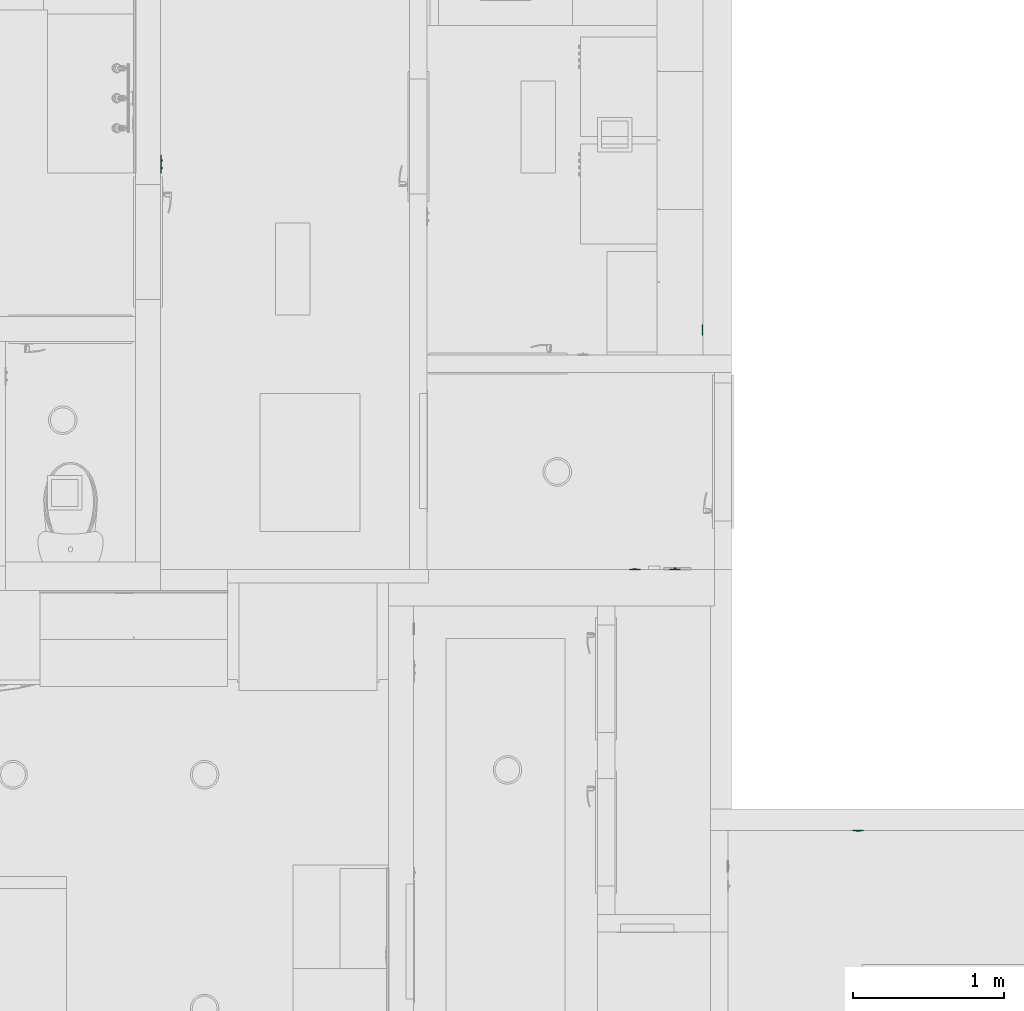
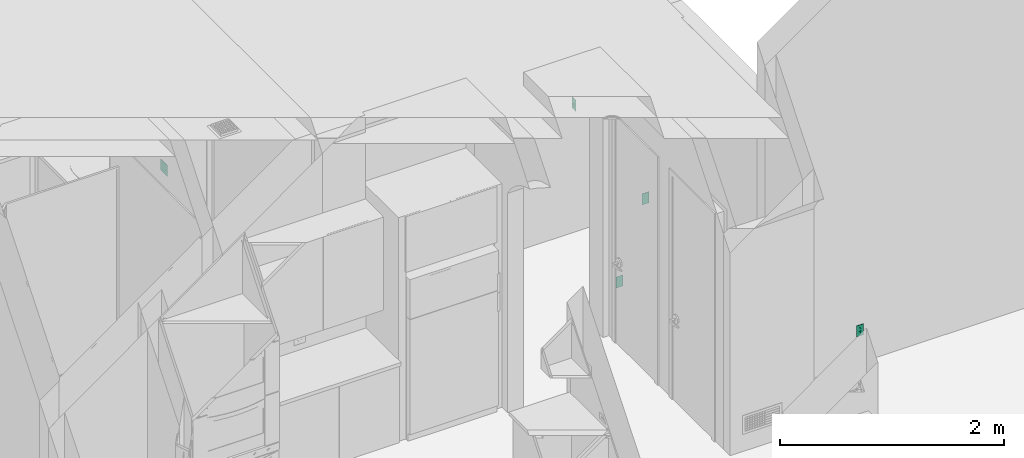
# One storey, part 30 of 103: 5 flow controllers.
"""IFC2X3 building model written with IfcOpenShell, lengths in inches."""

from ifc_helpers import new_model, entity, si_unit, converted_unit, derived_unit, money_unit, direction, frame, origin_with_axes, place, context, subcontext, project, spatial, faceted_brep, source, transform, mapped, type_object, element, save


model = new_model("IFC2X3")

# Units and contexts
model_context = context("Model", 3, precision=0.00039370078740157, world=origin_with_axes(), true_north=direction((0.0, 1.0)))
plan_context = context("Plan", 3, precision=0.00039370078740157, world=origin_with_axes(), true_north=direction((0.0, 1.0)))
body_context = subcontext(model_context, "Body", "Model", "MODEL_VIEW")
ifc_project = project(units=[converted_unit("LENGTHUNIT", "INCH", entity("IfcPositiveLengthMeasure", 0.0254), si_unit("LENGTHUNIT", "METRE"), dimensions=[1, 0, 0, 0, 0, 0, 0]), converted_unit("AREAUNIT", "SQUARE_FOOT", entity("IfcPositiveLengthMeasure", 0.09290304), si_unit("AREAUNIT", "SQUARE_METRE"), dimensions=[2, 0, 0, 0, 0, 0, 0]), si_unit("PLANEANGLEUNIT", "RADIAN"), si_unit("SOLIDANGLEUNIT", "STERADIAN"), money_unit("USD"), converted_unit("TIMEUNIT", "Year", entity("IfcTimeMeasure", 31557600.0), si_unit("TIMEUNIT", "SECOND"), dimensions=[0, 0, 1, 0, 0, 0, 0]), si_unit("MASSUNIT", "GRAM", prefix="KILO"), si_unit("THERMODYNAMICTEMPERATUREUNIT", "DEGREE_CELSIUS"), si_unit("LUMINOUSINTENSITYUNIT", "LUMEN"), si_unit("ENERGYUNIT", "JOULE", prefix="MEGA"), derived_unit("SPECIFICHEATCAPACITYUNIT", [(si_unit("ENERGYUNIT", "JOULE"), 1), (si_unit("MASSUNIT", "GRAM", prefix="KILO"), -1), (si_unit("THERMODYNAMICTEMPERATUREUNIT", "KELVIN"), -1)])], contexts=[model_context, plan_context])

# Site, building, storey
site_placement = place(None, origin_with_axes())
site = spatial("IfcSite", under=ifc_project, at=site_placement, Name="Site", CompositionType="ELEMENT")
building_placement = place(site_placement, origin_with_axes())
building = spatial("IfcBuilding", under=site, at=building_placement, Name="Building", CompositionType="ELEMENT")
storey_placement = place(building_placement, frame((0.0, 0.0, 127.9999999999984), z_axis=(0.0, 0.0, 1.0), x_axis=(1.0, 0.0, 0.0)))
storey = spatial("IfcBuildingStorey", under=building, at=storey_placement, Name="Second Floor", CompositionType="ELEMENT", Elevation=128.0)

# Flow controllers
switching_device_type_1 = type_object("IfcSwitchingDeviceType", Name="Outlet 1 US", PredefinedType="NOTDEFINED")
shared_shape_1 = source(origin_with_axes(), body_context, "Body", "Brep", [
    faceted_brep([(0.39370078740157, -0.03444881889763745, -1.18110236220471), (0.5436477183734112, -0.03444881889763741, -0.7086614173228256), (0.5436477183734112, -0.2165354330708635, -0.7086614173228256), (0.39370078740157, -0.2165354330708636, -1.18110236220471), (-0.3937007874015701, -0.03444881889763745, -1.181102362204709), (-0.543647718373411, -0.03444881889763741, -0.7086614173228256), (-0.39370078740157, -0.03444881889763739, -0.2362204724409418), (0.3937007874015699, -0.03444881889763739, -0.2362204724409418), (-0.196850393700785, -0.03444881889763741, -0.7086614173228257), (-0.196850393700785, -0.0344488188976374, -0.4724409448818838), (-0.275590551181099, -0.0344488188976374, -0.4724409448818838), (-0.275590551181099, -0.03444881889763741, -0.7086614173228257), (0.196850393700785, -0.03444881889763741, -0.7086614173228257), (0.275590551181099, -0.03444881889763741, -0.7086614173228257), (0.275590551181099, -0.0344488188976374, -0.4724409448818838), (0.196850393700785, -0.0344488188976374, -0.4724409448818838), (-0.078740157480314, -0.03444881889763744, -1.102362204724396), (0.078740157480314, -0.03444881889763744, -1.102362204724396), (0.078740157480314, -0.03444881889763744, -1.023622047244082), (0.06819097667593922, -0.03444881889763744, -0.9842519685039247), (0.03937007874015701, -0.03444881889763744, -0.9554310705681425), (0.0, -0.03444881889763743, -0.9448818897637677), (-0.03937007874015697, -0.03444881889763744, -0.9554310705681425), (-0.06819097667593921, -0.03444881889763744, -0.9842519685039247), (-0.078740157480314, -0.03444881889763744, -1.023622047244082), (0.3937007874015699, -0.2165354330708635, -0.2362204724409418), (-0.39370078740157, -0.2165354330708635, -0.2362204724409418), (-0.543647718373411, -0.2165354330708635, -0.7086614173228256), (-0.3937007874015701, -0.2165354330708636, -1.181102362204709), (-0.196850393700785, -0.2165354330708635, -0.7086614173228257), (-0.275590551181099, -0.2165354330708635, -0.7086614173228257), (-0.275590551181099, -0.2165354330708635, -0.4724409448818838), (-0.196850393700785, -0.2165354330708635, -0.4724409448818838), (0.196850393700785, -0.2165354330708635, -0.7086614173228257), (0.196850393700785, -0.2165354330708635, -0.4724409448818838), (0.275590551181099, -0.2165354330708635, -0.4724409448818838), (0.275590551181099, -0.2165354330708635, -0.7086614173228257), (-0.078740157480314, -0.2165354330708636, -1.102362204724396), (-0.078740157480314, -0.2165354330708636, -1.023622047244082), (-0.06819097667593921, -0.2165354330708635, -0.9842519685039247), (-0.03937007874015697, -0.2165354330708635, -0.9554310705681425), (0.0, -0.2165354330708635, -0.9448818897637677), (0.03937007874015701, -0.2165354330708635, -0.9554310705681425), (0.06819097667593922, -0.2165354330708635, -0.9842519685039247), (0.078740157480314, -0.2165354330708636, -1.023622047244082), (0.078740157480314, -0.2165354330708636, -1.102362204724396)], [[[0, 1, 2, 3]], [[0, 4, 5, 6, 7, 1], [8, 9, 10, 11], [12, 13, 14, 15], [16, 17, 18, 19, 20, 21, 22, 23, 24]], [[1, 7, 25, 2]], [[3, 2, 25, 26, 27, 28], [29, 30, 31, 32], [33, 34, 35, 36], [37, 38, 39, 40, 41, 42, 43, 44, 45]], [[4, 0, 3, 28]], [[5, 4, 28, 27]], [[6, 5, 27, 26]], [[7, 6, 26, 25]], [[9, 8, 29, 32]], [[10, 9, 32, 31]], [[11, 10, 31, 30]], [[8, 11, 30, 29]], [[13, 12, 33, 36]], [[14, 13, 36, 35]], [[15, 14, 35, 34]], [[12, 15, 34, 33]], [[17, 16, 37, 45]], [[18, 17, 45, 44]], [[19, 18, 44, 43]], [[20, 19, 43, 42]], [[21, 20, 42, 41]], [[22, 21, 41, 40]], [[23, 22, 40, 39]], [[24, 23, 39, 38]], [[16, 24, 38, 37]]]),
    faceted_brep([(0.39370078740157, -0.03444881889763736, 0.2362204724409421), (0.5436477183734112, -0.03444881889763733, 0.7086614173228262), (0.5436477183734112, -0.2165354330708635, 0.7086614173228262), (0.39370078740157, -0.2165354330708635, 0.2362204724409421), (-0.3937007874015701, -0.03444881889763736, 0.2362204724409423), (-0.543647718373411, -0.03444881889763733, 0.7086614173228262), (-0.39370078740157, -0.0344488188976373, 1.18110236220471), (0.3937007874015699, -0.0344488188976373, 1.18110236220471), (-0.196850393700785, -0.03444881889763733, 0.7086614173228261), (-0.196850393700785, -0.03444881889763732, 0.944881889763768), (-0.275590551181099, -0.03444881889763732, 0.944881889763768), (-0.275590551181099, -0.03444881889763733, 0.7086614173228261), (0.196850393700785, -0.03444881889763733, 0.7086614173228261), (0.275590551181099, -0.03444881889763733, 0.7086614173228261), (0.275590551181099, -0.03444881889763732, 0.944881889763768), (0.196850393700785, -0.03444881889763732, 0.944881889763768), (-0.078740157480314, -0.03444881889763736, 0.3149606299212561), (0.078740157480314, -0.03444881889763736, 0.3149606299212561), (0.078740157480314, -0.03444881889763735, 0.3937007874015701), (0.06819097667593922, -0.03444881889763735, 0.4330708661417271), (0.03937007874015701, -0.03444881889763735, 0.4618917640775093), (0.0, -0.03444881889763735, 0.472440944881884), (-0.03937007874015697, -0.03444881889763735, 0.4618917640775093), (-0.06819097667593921, -0.03444881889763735, 0.4330708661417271), (-0.078740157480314, -0.03444881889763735, 0.3937007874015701), (0.3937007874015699, -0.2165354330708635, 1.18110236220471), (-0.39370078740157, -0.2165354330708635, 1.18110236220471), (-0.543647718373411, -0.2165354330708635, 0.7086614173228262), (-0.3937007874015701, -0.2165354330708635, 0.2362204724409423), (-0.196850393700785, -0.2165354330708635, 0.7086614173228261), (-0.275590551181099, -0.2165354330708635, 0.7086614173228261), (-0.275590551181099, -0.2165354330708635, 0.944881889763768), (-0.196850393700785, -0.2165354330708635, 0.944881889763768), (0.196850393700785, -0.2165354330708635, 0.7086614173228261), (0.196850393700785, -0.2165354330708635, 0.944881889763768), (0.275590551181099, -0.2165354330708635, 0.944881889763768), (0.275590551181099, -0.2165354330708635, 0.7086614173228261), (-0.078740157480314, -0.2165354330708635, 0.3149606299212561), (-0.078740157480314, -0.2165354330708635, 0.3937007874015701), (-0.06819097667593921, -0.2165354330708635, 0.4330708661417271), (-0.03937007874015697, -0.2165354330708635, 0.4618917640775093), (0.0, -0.2165354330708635, 0.472440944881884), (0.03937007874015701, -0.2165354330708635, 0.4618917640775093), (0.06819097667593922, -0.2165354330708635, 0.4330708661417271), (0.078740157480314, -0.2165354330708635, 0.3937007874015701), (0.078740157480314, -0.2165354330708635, 0.3149606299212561)], [[[0, 1, 2, 3]], [[0, 4, 5, 6, 7, 1], [8, 9, 10, 11], [12, 13, 14, 15], [16, 17, 18, 19, 20, 21, 22, 23, 24]], [[1, 7, 25, 2]], [[3, 2, 25, 26, 27, 28], [29, 30, 31, 32], [33, 34, 35, 36], [37, 38, 39, 40, 41, 42, 43, 44, 45]], [[4, 0, 3, 28]], [[5, 4, 28, 27]], [[6, 5, 27, 26]], [[7, 6, 26, 25]], [[9, 8, 29, 32]], [[10, 9, 32, 31]], [[11, 10, 31, 30]], [[8, 11, 30, 29]], [[13, 12, 33, 36]], [[14, 13, 36, 35]], [[15, 14, 35, 34]], [[12, 15, 34, 33]], [[17, 16, 37, 45]], [[18, 17, 45, 44]], [[19, 18, 44, 43]], [[20, 19, 43, 42]], [[21, 20, 42, 41]], [[22, 21, 41, 40]], [[23, 22, 40, 39]], [[24, 23, 39, 38]], [[16, 24, 38, 37]]]),
    faceted_brep([(-1.343503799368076, -0.1377952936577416, -2.327755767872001), (1.343503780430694, -0.1377952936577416, -2.327755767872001), (1.343503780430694, -0.1377952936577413, 2.327755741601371), (-1.343503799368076, -0.1377952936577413, 2.327755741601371), (0.39370078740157, -0.1377952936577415, -1.18110236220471), (-0.3937007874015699, -0.1377952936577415, -1.181102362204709), (-0.5436477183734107, -0.1377952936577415, -0.7086614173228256), (-0.39370078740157, -0.1377952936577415, -0.2362204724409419), (0.3937007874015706, -0.1377952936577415, -0.2362204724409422), (0.5436477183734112, -0.1377952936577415, -0.7086614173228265), (-0.39370078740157, -0.1377952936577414, 1.18110236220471), (0.3937007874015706, -0.1377952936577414, 1.18110236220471), (0.5436477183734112, -0.1377952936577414, 0.7086614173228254), (0.39370078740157, -0.1377952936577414, 0.236220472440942), (-0.3937007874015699, -0.1377952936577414, 0.2362204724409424), (-0.5436477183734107, -0.1377952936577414, 0.7086614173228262), (-1.352419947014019, -0.1366214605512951, -2.336671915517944), (1.352419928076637, -0.1366214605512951, -2.336671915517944), (1.352419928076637, -0.1366214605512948, 2.336671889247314), (-1.352419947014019, -0.1366214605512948, 2.336671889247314), (0.39370078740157, -0.03444881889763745, -1.18110236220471), (-0.3937007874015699, -0.03444881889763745, -1.181102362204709), (-0.5436477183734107, -0.03444881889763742, -0.7086614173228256), (-0.39370078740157, -0.03444881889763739, -0.2362204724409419), (0.3937007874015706, -0.03444881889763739, -0.2362204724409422), (0.5436477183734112, -0.03444881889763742, -0.7086614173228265), (-0.39370078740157, -0.0344488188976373, 1.18110236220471), (0.3937007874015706, -0.0344488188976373, 1.18110236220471), (0.5436477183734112, -0.03444881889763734, 0.7086614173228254), (0.39370078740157, -0.03444881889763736, 0.236220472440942), (-0.3937007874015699, -0.03444881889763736, 0.2362204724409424), (-0.5436477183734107, -0.03444881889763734, 0.7086614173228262), (-1.36786294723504, -0.1277054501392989, -2.352114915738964), (1.367862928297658, -0.1277054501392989, -2.352114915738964), (1.367862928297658, -0.1277054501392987, 2.352114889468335), (-1.36786294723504, -0.1277054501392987, 2.352114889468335), (-1.376778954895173, -0.1122624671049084, -2.361030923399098), (1.376778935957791, -0.1122624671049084, -2.361030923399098), (1.376778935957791, -0.1122624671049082, 2.361030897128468), (-1.376778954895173, -0.1122624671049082, 2.361030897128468), (-1.377952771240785, -0.1033464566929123, -2.362204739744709), (1.377952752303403, -0.1033464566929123, -2.362204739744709), (1.377952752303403, -0.103346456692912, 2.36220471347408), (-1.377952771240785, -0.103346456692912, 2.36220471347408), (-1.377952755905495, 0.0, -2.36220472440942), (1.377952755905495, 0.0, -2.36220472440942), (1.377952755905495, 0.0, 2.36220472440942), (-1.377952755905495, 0.0, 2.36220472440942)], [[[0, 1, 2, 3], [4, 5, 6, 7, 8, 9], [10, 11, 12, 13, 14, 15]], [[1, 0, 16, 17]], [[2, 1, 17, 18]], [[3, 2, 18, 19]], [[0, 3, 19, 16]], [[4, 20, 21, 5]], [[5, 21, 22, 6]], [[6, 22, 23, 7]], [[7, 23, 24, 8]], [[8, 24, 25, 9]], [[9, 25, 20, 4]], [[11, 10, 26, 27]], [[12, 11, 27, 28]], [[13, 12, 28, 29]], [[14, 13, 29, 30]], [[15, 14, 30, 31]], [[10, 15, 31, 26]], [[17, 16, 32, 33]], [[18, 17, 33, 34]], [[19, 18, 34, 35]], [[16, 19, 35, 32]], [[22, 21, 20, 25, 24, 23]], [[28, 27, 26, 31, 30, 29]], [[33, 32, 36, 37]], [[34, 33, 37, 38]], [[35, 34, 38, 39]], [[32, 35, 39, 36]], [[37, 36, 40, 41]], [[38, 37, 41, 42]], [[39, 38, 42, 43]], [[36, 39, 43, 40]], [[41, 40, 44, 45]], [[42, 41, 45, 46]], [[43, 42, 46, 47]], [[40, 43, 47, 44]], [[46, 45, 44, 47]]]),
])
for number, where, z_axis, x_axis, name in (
    (1, (236.9999999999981, 463.5312499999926, 45.99999999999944), (0.0, 0.0, 1.0), (0.0, -1.0, 0.0), "FU - 029"),
    (2, (277.4999999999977, 332.9999999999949, 13.99803149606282), (0.0, 0.0, 1.0), (1.0, 0.0, 0.0), "FU - 029"),
    (3, (219.2499999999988, 401.0009092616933, 13.99999999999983), (0.0, 0.0, 1.0), (-1.0, 0.0, 0.0), "FU - 029"),
):
    element("IfcFlowController", number, at=place(storey_placement, frame(where, z_axis=z_axis, x_axis=x_axis)), inside=storey, type_object=switching_device_type_1, Name=name, context=body_context, shape_type="MappedRepresentation", body=[
        mapped(shared_shape_1, transform((0.0, 0.0, 0.0))),
    ])
switching_device_type_2 = type_object("IfcSwitchingDeviceType", Name="Switch US", PredefinedType="NOTDEFINED")
shared_shape_2 = source(origin_with_axes(), body_context, "Body", "Brep", [
    faceted_brep([(0.196850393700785, 0.0, -0.5905511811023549), (-0.196850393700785, 0.0, -0.5905511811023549), (-0.196850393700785, 0.0, 0.5905511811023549), (0.196850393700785, 0.0, 0.5905511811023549), (0.196850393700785, -0.1033464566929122, -0.5905511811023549), (-0.196850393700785, -0.1033464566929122, -0.5905511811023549), (-0.196850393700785, -0.1033464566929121, 0.157480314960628), (-0.196850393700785, -0.4970472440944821, 0.1574803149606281), (-0.196850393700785, -0.4970472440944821, 0.472440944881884), (-0.196850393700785, -0.1033464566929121, 0.472440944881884), (-0.196850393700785, -0.1033464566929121, 0.5905511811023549), (0.196850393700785, -0.103346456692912, 0.5905511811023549), (0.196850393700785, -0.1033464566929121, 0.472440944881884), (0.196850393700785, -0.4970472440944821, 0.472440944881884), (0.196850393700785, -0.4970472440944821, 0.1574803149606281), (0.196850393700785, -0.1033464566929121, 0.157480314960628)], [[[0, 1, 2, 3]], [[4, 5, 1, 0]], [[1, 5, 6, 7, 8, 9, 10, 2]], [[3, 2, 10, 11]], [[0, 3, 11, 12, 13, 14, 15, 4]], [[15, 6, 5, 4]], [[14, 7, 6, 15]], [[13, 8, 7, 14]], [[12, 9, 8, 13]], [[11, 10, 9, 12]]]),
    faceted_brep([(0.275590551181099, 0.0, -0.669291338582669), (0.275590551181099, -0.1771653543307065, -0.669291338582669), (-0.275590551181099, -0.1771653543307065, -0.669291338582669), (-0.275590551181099, 0.0, -0.669291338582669), (0.275590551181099, 0.0, 0.669291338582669), (0.275590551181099, -0.1771653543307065, 0.669291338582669), (-0.275590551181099, -0.1771653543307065, 0.669291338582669), (0.196850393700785, -0.1771653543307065, -0.5905511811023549), (-0.196850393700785, -0.1771653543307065, -0.5905511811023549), (-0.196850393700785, -0.1771653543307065, 0.5905511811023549), (0.196850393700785, -0.1771653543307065, 0.5905511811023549), (-0.275590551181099, 0.0, 0.669291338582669), (0.196850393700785, 0.0, -0.5905511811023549), (0.196850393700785, 0.0, 0.5905511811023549), (-0.196850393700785, 0.0, 0.5905511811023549), (-0.196850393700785, 0.0, -0.5905511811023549)], [[[0, 1, 2, 3]], [[4, 5, 1, 0]], [[1, 5, 6, 2], [7, 8, 9, 10]], [[3, 2, 6, 11]], [[0, 3, 11, 4], [12, 13, 14, 15]], [[11, 6, 5, 4]], [[15, 8, 7, 12]], [[14, 9, 8, 15]], [[13, 10, 9, 14]], [[12, 7, 10, 13]]]),
    faceted_brep([(1.343503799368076, -0.1377952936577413, 2.32775574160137), (-1.343503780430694, -0.1377952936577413, 2.32775574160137), (-1.343503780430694, -0.1377952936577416, -2.327755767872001), (1.343503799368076, -0.1377952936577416, -2.327755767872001), (0.275590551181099, -0.1377952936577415, -0.669291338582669), (-0.275590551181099, -0.1377952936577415, -0.669291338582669), (-0.275590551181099, -0.1377952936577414, 0.669291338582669), (0.275590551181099, -0.1377952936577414, 0.669291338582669), (1.352419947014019, -0.1366214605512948, 2.336671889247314), (-1.352419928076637, -0.1366214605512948, 2.336671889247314), (-1.352419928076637, -0.1366214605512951, -2.336671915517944), (1.352419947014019, -0.1366214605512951, -2.336671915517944), (-0.275590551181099, 0.0, -0.669291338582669), (0.275590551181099, 0.0, -0.669291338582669), (-0.275590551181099, 0.0, 0.669291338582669), (0.275590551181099, 0.0, 0.669291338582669), (1.36786294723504, -0.1277054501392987, 2.352114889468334), (-1.367862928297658, -0.1277054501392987, 2.352114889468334), (-1.367862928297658, -0.1277054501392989, -2.352114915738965), (1.36786294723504, -0.1277054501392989, -2.352114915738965), (1.377952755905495, 0.0, 2.36220472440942), (1.377952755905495, 0.0, -2.36220472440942), (-1.377952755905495, 0.0, -2.36220472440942), (-1.377952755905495, 0.0, 2.36220472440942), (1.376778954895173, -0.1122624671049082, 2.361030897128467), (-1.376778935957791, -0.1122624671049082, 2.361030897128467), (-1.376778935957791, -0.1122624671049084, -2.361030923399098), (1.376778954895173, -0.1122624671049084, -2.361030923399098), (1.377952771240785, -0.103346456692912, 2.362204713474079), (1.377952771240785, -0.1033464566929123, -2.36220473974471), (-1.377952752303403, -0.1033464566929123, -2.36220473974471), (-1.377952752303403, -0.103346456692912, 2.362204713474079)], [[[0, 1, 2, 3], [4, 5, 6, 7]], [[8, 9, 1, 0]], [[9, 10, 2, 1]], [[10, 11, 3, 2]], [[11, 8, 0, 3]], [[12, 5, 4, 13]], [[14, 6, 5, 12]], [[15, 7, 6, 14]], [[13, 4, 7, 15]], [[16, 17, 9, 8]], [[17, 18, 10, 9]], [[18, 19, 11, 10]], [[19, 16, 8, 11]], [[20, 21, 22, 23], [13, 15, 14, 12]], [[24, 25, 17, 16]], [[25, 26, 18, 17]], [[26, 27, 19, 18]], [[27, 24, 16, 19]], [[21, 20, 28, 29]], [[22, 21, 29, 30]], [[23, 22, 30, 31]], [[20, 23, 31, 28]], [[28, 31, 25, 24]], [[31, 30, 26, 25]], [[30, 29, 27, 26]], [[29, 28, 24, 27]]]),
])
flow_controller_1_placement = place(storey_placement, frame((229.7499999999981, 401.0009092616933, 45.99999999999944), z_axis=(0.0, 0.0, 1.0), x_axis=(-1.0, 0.0, 0.0)))
element("IfcFlowController", 4, at=flow_controller_1_placement, inside=storey, type_object=switching_device_type_2, Name="OBJ-09", context=body_context, shape_type="MappedRepresentation", body=[
    mapped(shared_shape_2, transform((0.0, 0.0, 0.0))),
])
shared_shape_3 = source(origin_with_axes(), body_context, "Body", "Brep", [
    faceted_brep([(1.18110236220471, 0.0, -0.5905511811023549), (0.7874015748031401, 0.0, -0.5905511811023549), (0.7874015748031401, 0.0, 0.5905511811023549), (1.18110236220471, 0.0, 0.5905511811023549), (1.18110236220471, -0.1033464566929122, -0.5905511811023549), (0.7874015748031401, -0.1033464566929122, -0.5905511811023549), (0.7874015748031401, -0.1033464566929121, 0.157480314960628), (0.7874015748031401, -0.4970472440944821, 0.1574803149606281), (0.7874015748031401, -0.4970472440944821, 0.472440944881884), (0.7874015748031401, -0.1033464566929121, 0.472440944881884), (0.7874015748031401, -0.1033464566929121, 0.5905511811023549), (1.18110236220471, -0.103346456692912, 0.5905511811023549), (1.18110236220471, -0.1033464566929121, 0.472440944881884), (1.18110236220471, -0.4970472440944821, 0.472440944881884), (1.18110236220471, -0.4970472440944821, 0.1574803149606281), (1.18110236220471, -0.1033464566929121, 0.157480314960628)], [[[0, 1, 2, 3]], [[4, 5, 1, 0]], [[1, 5, 6, 7, 8, 9, 10, 2]], [[3, 2, 10, 11]], [[0, 3, 11, 12, 13, 14, 15, 4]], [[15, 6, 5, 4]], [[14, 7, 6, 15]], [[13, 8, 7, 14]], [[12, 9, 8, 13]], [[11, 10, 9, 12]]]),
    faceted_brep([(1.259842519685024, 0.0, -0.669291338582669), (1.259842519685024, -0.1771653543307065, -0.669291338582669), (0.7086614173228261, -0.1771653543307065, -0.669291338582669), (0.7086614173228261, 0.0, -0.669291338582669), (1.259842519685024, 0.0, 0.669291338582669), (1.259842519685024, -0.1771653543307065, 0.669291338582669), (0.7086614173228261, -0.1771653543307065, 0.669291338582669), (1.18110236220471, -0.1771653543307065, -0.5905511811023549), (0.78740157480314, -0.1771653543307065, -0.5905511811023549), (0.78740157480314, -0.1771653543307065, 0.5905511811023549), (1.18110236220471, -0.1771653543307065, 0.5905511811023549), (0.7086614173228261, 0.0, 0.669291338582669), (1.18110236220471, 0.0, -0.5905511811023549), (1.18110236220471, 0.0, 0.5905511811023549), (0.78740157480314, 0.0, 0.5905511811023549), (0.78740157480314, 0.0, -0.5905511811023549)], [[[0, 1, 2, 3]], [[4, 5, 1, 0]], [[1, 5, 6, 2], [7, 8, 9, 10]], [[3, 2, 6, 11]], [[0, 3, 11, 4], [12, 13, 14, 15]], [[11, 6, 5, 4]], [[15, 8, 7, 12]], [[14, 9, 8, 15]], [[13, 10, 9, 14]], [[12, 7, 10, 13]]]),
    faceted_brep([(0.0, -0.103346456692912, 2.362204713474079), (2.362204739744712, -0.103346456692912, 2.362204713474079), (2.36220472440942, 0.0, 2.36220472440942), (0.0, 0.0, 2.36220472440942), (0.0, -0.1122624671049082, 2.361030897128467), (2.361030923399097, -0.1122624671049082, 2.361030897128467), (2.362204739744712, -0.1033464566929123, -2.36220473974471), (2.36220472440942, 0.0, -2.36220472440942), (0.0, 0.0, -2.36220472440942), (0.7086614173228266, 0.0, -0.669291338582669), (1.259842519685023, 0.0, -0.669291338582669), (1.259842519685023, 0.0, 0.669291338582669), (0.7086614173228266, 0.0, 0.669291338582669), (0.0, -0.1033464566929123, -2.36220473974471), (0.0, -0.1122624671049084, -2.361030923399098), (0.0, -0.1277054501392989, -2.352114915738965), (0.0, -0.1366214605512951, -2.336671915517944), (0.0, -0.1377952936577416, -2.327755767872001), (0.0, -0.1377952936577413, 2.32775574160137), (0.0, -0.1366214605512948, 2.336671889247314), (0.0, -0.1277054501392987, 2.352114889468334), (2.352114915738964, -0.1277054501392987, 2.352114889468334), (2.361030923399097, -0.1122624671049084, -2.361030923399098), (0.7086614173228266, -0.1377952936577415, -0.669291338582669), (1.259842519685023, -0.1377952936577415, -0.669291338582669), (1.259842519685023, -0.1377952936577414, 0.669291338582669), (0.7086614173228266, -0.1377952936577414, 0.669291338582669), (2.352114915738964, -0.1277054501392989, -2.352114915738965), (2.336671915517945, -0.1366214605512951, -2.336671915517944), (2.327755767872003, -0.1377952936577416, -2.327755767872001), (2.327755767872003, -0.1377952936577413, 2.32775574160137), (2.336671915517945, -0.1366214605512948, 2.336671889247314)], [[[0, 1, 2, 3]], [[4, 5, 1, 0]], [[6, 7, 2, 1]], [[3, 2, 7, 8], [9, 10, 11, 12]], [[8, 13, 14, 15, 16, 17, 18, 19, 20, 4, 0, 3]], [[20, 21, 5, 4]], [[22, 6, 1, 5]], [[8, 7, 6, 13]], [[10, 9, 23, 24]], [[11, 10, 24, 25]], [[12, 11, 25, 26]], [[9, 12, 26, 23]], [[13, 6, 22, 14]], [[14, 22, 27, 15]], [[15, 27, 28, 16]], [[16, 28, 29, 17]], [[17, 29, 30, 18], [25, 24, 23, 26]], [[18, 30, 31, 19]], [[19, 31, 21, 20]], [[27, 22, 5, 21]], [[28, 27, 21, 31]], [[29, 28, 31, 30]]]),
    faceted_brep([(-0.78740157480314, 0.0, -0.5905511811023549), (-1.18110236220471, 0.0, -0.5905511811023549), (-1.18110236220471, 0.0, 0.5905511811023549), (-0.78740157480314, 0.0, 0.5905511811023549), (-0.78740157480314, -0.1033464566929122, -0.5905511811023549), (-1.18110236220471, -0.1033464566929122, -0.5905511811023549), (-1.18110236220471, -0.1033464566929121, 0.157480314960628), (-1.18110236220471, -0.4970472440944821, 0.1574803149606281), (-1.18110236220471, -0.4970472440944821, 0.472440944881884), (-1.18110236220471, -0.1033464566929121, 0.472440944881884), (-1.18110236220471, -0.1033464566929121, 0.5905511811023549), (-0.78740157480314, -0.103346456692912, 0.5905511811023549), (-0.78740157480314, -0.1033464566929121, 0.472440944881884), (-0.78740157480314, -0.4970472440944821, 0.472440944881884), (-0.78740157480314, -0.4970472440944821, 0.1574803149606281), (-0.78740157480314, -0.1033464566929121, 0.157480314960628)], [[[0, 1, 2, 3]], [[4, 5, 1, 0]], [[1, 5, 6, 7, 8, 9, 10, 2]], [[3, 2, 10, 11]], [[0, 3, 11, 12, 13, 14, 15, 4]], [[15, 6, 5, 4]], [[14, 7, 6, 15]], [[13, 8, 7, 14]], [[12, 9, 8, 13]], [[11, 10, 9, 12]]]),
    faceted_brep([(-0.7086614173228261, 0.0, -0.669291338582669), (-0.7086614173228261, -0.1771653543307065, -0.669291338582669), (-1.259842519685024, -0.1771653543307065, -0.669291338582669), (-1.259842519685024, 0.0, -0.669291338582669), (-0.7086614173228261, 0.0, 0.669291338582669), (-0.7086614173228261, -0.1771653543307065, 0.669291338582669), (-1.259842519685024, -0.1771653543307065, 0.669291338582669), (-0.78740157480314, -0.1771653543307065, -0.5905511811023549), (-1.18110236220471, -0.1771653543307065, -0.5905511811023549), (-1.18110236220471, -0.1771653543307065, 0.5905511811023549), (-0.78740157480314, -0.1771653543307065, 0.5905511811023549), (-1.259842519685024, 0.0, 0.669291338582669), (-0.78740157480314, 0.0, -0.5905511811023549), (-0.78740157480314, 0.0, 0.5905511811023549), (-1.18110236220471, 0.0, 0.5905511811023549), (-1.18110236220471, 0.0, -0.5905511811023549)], [[[0, 1, 2, 3]], [[4, 5, 1, 0]], [[1, 5, 6, 2], [7, 8, 9, 10]], [[3, 2, 6, 11]], [[0, 3, 11, 4], [12, 13, 14, 15]], [[11, 6, 5, 4]], [[15, 8, 7, 12]], [[14, 9, 8, 15]], [[13, 10, 9, 14]], [[12, 7, 10, 13]]]),
    faceted_brep([(0.0, 0.0, -2.36220472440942), (-2.362204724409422, 0.0, -2.36220472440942), (-2.362204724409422, 0.0, 2.36220472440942), (0.0, 0.0, 2.36220472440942), (-1.259842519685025, 0.0, -0.669291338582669), (-0.7086614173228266, 0.0, -0.669291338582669), (-0.7086614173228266, 0.0, 0.669291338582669), (-1.259842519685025, 0.0, 0.669291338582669), (0.0, -0.1033464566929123, -2.36220473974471), (-2.362204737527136, -0.1033464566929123, -2.36220473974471), (-2.362204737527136, -0.103346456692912, 2.362204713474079), (0.0, -0.103346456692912, 2.362204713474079), (0.0, -0.1122624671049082, 2.361030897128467), (0.0, -0.1277054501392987, 2.352114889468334), (0.0, -0.1366214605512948, 2.336671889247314), (0.0, -0.1377952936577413, 2.32775574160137), (0.0, -0.1377952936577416, -2.327755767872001), (0.0, -0.1366214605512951, -2.336671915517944), (0.0, -0.1277054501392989, -2.352114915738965), (0.0, -0.1122624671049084, -2.361030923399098), (-1.259842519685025, -0.1377952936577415, -0.669291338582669), (-0.7086614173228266, -0.1377952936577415, -0.669291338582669), (-0.7086614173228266, -0.1377952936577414, 0.669291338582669), (-1.259842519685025, -0.1377952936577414, 0.669291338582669), (-2.361030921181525, -0.1122624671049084, -2.361030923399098), (-2.361030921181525, -0.1122624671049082, 2.361030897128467), (-2.352114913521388, -0.1277054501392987, 2.352114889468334), (-2.336671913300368, -0.1366214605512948, 2.336671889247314), (-2.327755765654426, -0.1377952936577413, 2.32775574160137), (-2.327755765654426, -0.1377952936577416, -2.327755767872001), (-2.336671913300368, -0.1366214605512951, -2.336671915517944), (-2.352114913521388, -0.1277054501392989, -2.352114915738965)], [[[0, 1, 2, 3], [4, 5, 6, 7]], [[8, 9, 1, 0]], [[10, 2, 1, 9]], [[3, 2, 10, 11]], [[11, 12, 13, 14, 15, 16, 17, 18, 19, 8, 0, 3]], [[5, 4, 20, 21]], [[6, 5, 21, 22]], [[7, 6, 22, 23]], [[4, 7, 23, 20]], [[19, 24, 9, 8]], [[25, 10, 9, 24]], [[11, 10, 25, 12]], [[12, 25, 26, 13]], [[13, 26, 27, 14]], [[14, 27, 28, 15]], [[15, 28, 29, 16], [22, 21, 20, 23]], [[16, 29, 30, 17]], [[17, 30, 31, 18]], [[18, 31, 24, 19]], [[26, 25, 24, 31]], [[27, 26, 31, 30]], [[28, 27, 30, 29]]]),
])
flow_controller_2_placement = place(storey_placement, frame((95.5000035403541, 506.7741541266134, 41.99999999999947), z_axis=(0.0, 0.0, 1.0), x_axis=(0.0, 1.0, 0.0)))
element("IfcFlowController", 5, at=flow_controller_2_placement, inside=storey, type_object=switching_device_type_2, Name="OBJ-09", context=body_context, shape_type="MappedRepresentation", body=[
    mapped(shared_shape_3, transform((0.0, 0.0, 0.0))),
])

save(model, "model.ifc")
